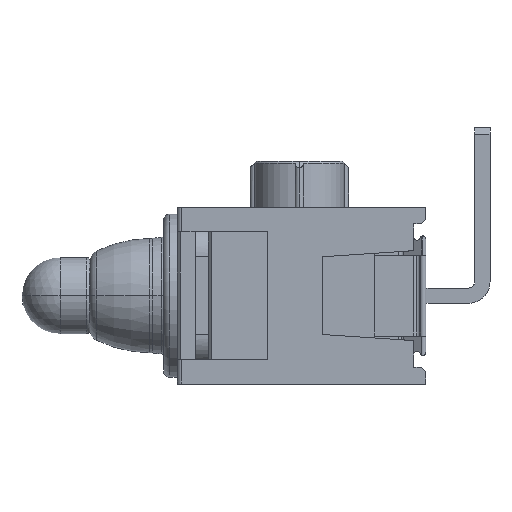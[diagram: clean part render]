
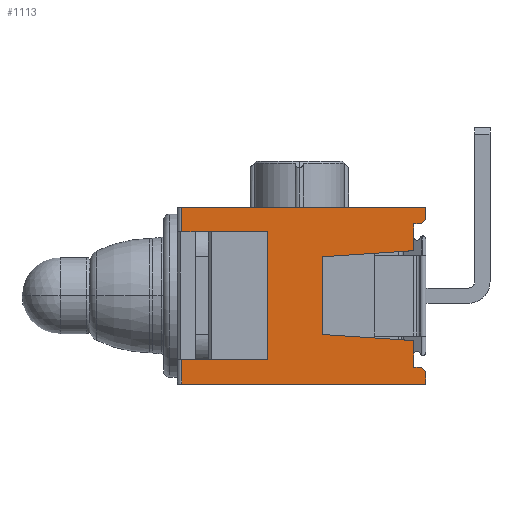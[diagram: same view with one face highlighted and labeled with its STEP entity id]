
A CAD part, left-side view. The second image highlights one B-rep face of the part: STEP entity #1113.
In plain terms, the highlighted planar face has unit normal (-1, 0, 0).
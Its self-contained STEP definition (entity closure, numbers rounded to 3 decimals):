
#951 = ORIENTED_EDGE ( 'NONE', *, *, #952, .T. ) ;
#952 = EDGE_CURVE ( 'NONE', #12092, #1134, #6351, .T. ) ;
#953 = ORIENTED_EDGE ( 'NONE', *, *, #954, .T. ) ;
#954 = EDGE_CURVE ( 'NONE', #1134, #955, #6347, .T. ) ;
#955 = VERTEX_POINT ( 'NONE', #6343 ) ;
#956 = ORIENTED_EDGE ( 'NONE', *, *, #957, .T. ) ;
#957 = EDGE_CURVE ( 'NONE', #955, #958, #6342, .T. ) ;
#958 = VERTEX_POINT ( 'NONE', #6338 ) ;
#959 = ORIENTED_EDGE ( 'NONE', *, *, #960, .T. ) ;
#960 = EDGE_CURVE ( 'NONE', #958, #961, #6337, .T. ) ;
#961 = VERTEX_POINT ( 'NONE', #6333 ) ;
#962 = ORIENTED_EDGE ( 'NONE', *, *, #963, .T. ) ;
#963 = EDGE_CURVE ( 'NONE', #961, #3244, #6332, .T. ) ;
#1092 = ORIENTED_EDGE ( 'NONE', *, *, #2604, .T. ) ;
#1093 = ORIENTED_EDGE ( 'NONE', *, *, #3200, .T. ) ;
#1094 = ORIENTED_EDGE ( 'NONE', *, *, #3509, .T. ) ;
#1113 = ADVANCED_FACE ( 'NONE', ( #12820 ), #12805, .F. ) ;
#1114 = EDGE_LOOP ( 'NONE', ( #1115, #1116, #1119, #1122, #1125, #1128, #1130, #1131, #1132, #1133, #951, #953, #956, #959, #962, #1092, #1093, #1094 ) ) ;
#1115 = ORIENTED_EDGE ( 'NONE', *, *, #2469, .F. ) ;
#1116 = ORIENTED_EDGE ( 'NONE', *, *, #1117, .T. ) ;
#1117 = EDGE_CURVE ( 'NONE', #2467, #1118, #12800, .T. ) ;
#1118 = VERTEX_POINT ( 'NONE', #12796 ) ;
#1119 = ORIENTED_EDGE ( 'NONE', *, *, #1120, .F. ) ;
#1120 = EDGE_CURVE ( 'NONE', #1121, #1118, #12795, .T. ) ;
#1121 = VERTEX_POINT ( 'NONE', #12791 ) ;
#1122 = ORIENTED_EDGE ( 'NONE', *, *, #1123, .T. ) ;
#1123 = EDGE_CURVE ( 'NONE', #1121, #1124, #12790, .T. ) ;
#1124 = VERTEX_POINT ( 'NONE', #12786 ) ;
#1125 = ORIENTED_EDGE ( 'NONE', *, *, #1126, .F. ) ;
#1126 = EDGE_CURVE ( 'NONE', #1127, #1124, #12785, .T. ) ;
#1127 = VERTEX_POINT ( 'NONE', #12781 ) ;
#1128 = ORIENTED_EDGE ( 'NONE', *, *, #1129, .T. ) ;
#1129 = EDGE_CURVE ( 'NONE', #1127, #2674, #12780, .T. ) ;
#1130 = ORIENTED_EDGE ( 'NONE', *, *, #2673, .T. ) ;
#1131 = ORIENTED_EDGE ( 'NONE', *, *, #2700, .T. ) ;
#1132 = ORIENTED_EDGE ( 'NONE', *, *, #2639, .T. ) ;
#1133 = ORIENTED_EDGE ( 'NONE', *, *, #12108, .T. ) ;
#1134 = VERTEX_POINT ( 'NONE', #12776 ) ;
#2467 = VERTEX_POINT ( 'NONE', #15805 ) ;
#2469 = EDGE_CURVE ( 'NONE', #2467, #2499, #15804, .T. ) ;
#2499 = VERTEX_POINT ( 'NONE', #15715 ) ;
#2604 = EDGE_CURVE ( 'NONE', #3244, #3245, #15864, .T. ) ;
#2639 = EDGE_CURVE ( 'NONE', #2698, #12109, #15944, .T. ) ;
#2671 = VERTEX_POINT ( 'NONE', #16222 ) ;
#2673 = EDGE_CURVE ( 'NONE', #2674, #2671, #16221, .T. ) ;
#2674 = VERTEX_POINT ( 'NONE', #16217 ) ;
#2698 = VERTEX_POINT ( 'NONE', #16191 ) ;
#2700 = EDGE_CURVE ( 'NONE', #2671, #2698, #16189, .T. ) ;
#3198 = VERTEX_POINT ( 'NONE', #17584 ) ;
#3200 = EDGE_CURVE ( 'NONE', #3245, #3198, #17582, .T. ) ;
#3244 = VERTEX_POINT ( 'NONE', #17837 ) ;
#3245 = VERTEX_POINT ( 'NONE', #17836 ) ;
#3509 = EDGE_CURVE ( 'NONE', #3198, #2499, #6781, .T. ) ;
#6329 = DIRECTION ( 'NONE',  ( 0., 0., 1. ) ) ;
#6330 = VECTOR ( 'NONE', #6329, 1000. ) ;
#6331 = CARTESIAN_POINT ( 'NONE',  ( -6.5, 0.6, 1.475 ) ) ;
#6332 = LINE ( 'NONE', #6331, #6330 ) ;
#6333 = CARTESIAN_POINT ( 'NONE',  ( -6.5, 0.6, 1.475 ) ) ;
#6334 = DIRECTION ( 'NONE',  ( 0., -0.998, 0.067 ) ) ;
#6335 = VECTOR ( 'NONE', #6334, 1000. ) ;
#6336 = CARTESIAN_POINT ( 'NONE',  ( -6.5, 3.6, 1.275 ) ) ;
#6337 = LINE ( 'NONE', #6336, #6335 ) ;
#6338 = CARTESIAN_POINT ( 'NONE',  ( -6.5, 3.6, 1.275 ) ) ;
#6339 = DIRECTION ( 'NONE',  ( 0., 0., 1. ) ) ;
#6340 = VECTOR ( 'NONE', #6339, 1000. ) ;
#6341 = CARTESIAN_POINT ( 'NONE',  ( -6.5, 3.6, -2.352 ) ) ;
#6342 = LINE ( 'NONE', #6341, #6340 ) ;
#6343 = CARTESIAN_POINT ( 'NONE',  ( -6.5, 3.6, -1.275 ) ) ;
#6344 = DIRECTION ( 'NONE',  ( 0., 0.998, 0.067 ) ) ;
#6345 = VECTOR ( 'NONE', #6344, 1000. ) ;
#6346 = CARTESIAN_POINT ( 'NONE',  ( -6.5, 0.6, -1.475 ) ) ;
#6347 = LINE ( 'NONE', #6346, #6345 ) ;
#6348 = DIRECTION ( 'NONE',  ( 0., 0., 1. ) ) ;
#6349 = VECTOR ( 'NONE', #6348, 1000. ) ;
#6350 = CARTESIAN_POINT ( 'NONE',  ( -6.5, 0.6, -2.352 ) ) ;
#6351 = LINE ( 'NONE', #6350, #6349 ) ;
#6778 = DIRECTION ( 'NONE',  ( 0., 0., 1. ) ) ;
#6779 = VECTOR ( 'NONE', #6778, 1000. ) ;
#6780 = CARTESIAN_POINT ( 'NONE',  ( -6.5, 0.2, 2.502 ) ) ;
#6781 = LINE ( 'NONE', #6780, #6779 ) ;
#9974 = CARTESIAN_POINT ( 'NONE',  ( -6.5, 0.35, -2.352 ) ) ;
#9975 = DIRECTION ( 'NONE',  ( 0., 1., 0. ) ) ;
#9976 = VECTOR ( 'NONE', #9975, 1000. ) ;
#9977 = CARTESIAN_POINT ( 'NONE',  ( -6.5, 7.77, -2.353 ) ) ;
#9978 = LINE ( 'NONE', #9977, #9976 ) ;
#10121 = CARTESIAN_POINT ( 'NONE',  ( -6.5, 0.6, -2.352 ) ) ;
#12092 = VERTEX_POINT ( 'NONE', #10121 ) ;
#12108 = EDGE_CURVE ( 'NONE', #12109, #12092, #9978, .T. ) ;
#12109 = VERTEX_POINT ( 'NONE', #9974 ) ;
#12776 = CARTESIAN_POINT ( 'NONE',  ( -6.5, 0.6, -1.475 ) ) ;
#12777 = DIRECTION ( 'NONE',  ( 0., 0., -1. ) ) ;
#12778 = VECTOR ( 'NONE', #12777, 1000. ) ;
#12779 = CARTESIAN_POINT ( 'NONE',  ( -6.5, 8.205, 2.9 ) ) ;
#12780 = LINE ( 'NONE', #12779, #12778 ) ;
#12781 = CARTESIAN_POINT ( 'NONE',  ( -6.5, 8.205, -2.095 ) ) ;
#12782 = DIRECTION ( 'NONE',  ( 0., -1., 0. ) ) ;
#12783 = VECTOR ( 'NONE', #12782, 1000. ) ;
#12784 = CARTESIAN_POINT ( 'NONE',  ( -6.5, 8.355, -2.095 ) ) ;
#12785 = LINE ( 'NONE', #12784, #12783 ) ;
#12786 = CARTESIAN_POINT ( 'NONE',  ( -6.5, 5.39, -2.095 ) ) ;
#12787 = DIRECTION ( 'NONE',  ( 0., 0., -1. ) ) ;
#12788 = VECTOR ( 'NONE', #12787, 1000. ) ;
#12789 = CARTESIAN_POINT ( 'NONE',  ( -6.5, 5.39, -2.095 ) ) ;
#12790 = LINE ( 'NONE', #12789, #12788 ) ;
#12791 = CARTESIAN_POINT ( 'NONE',  ( -6.5, 5.39, 2.095 ) ) ;
#12792 = DIRECTION ( 'NONE',  ( 0., 1., 0. ) ) ;
#12793 = VECTOR ( 'NONE', #12792, 1000. ) ;
#12794 = CARTESIAN_POINT ( 'NONE',  ( -6.5, 8.355, 2.095 ) ) ;
#12795 = LINE ( 'NONE', #12794, #12793 ) ;
#12796 = CARTESIAN_POINT ( 'NONE',  ( -6.5, 8.205, 2.095 ) ) ;
#12797 = DIRECTION ( 'NONE',  ( 0., 0., -1. ) ) ;
#12798 = VECTOR ( 'NONE', #12797, 1000. ) ;
#12799 = CARTESIAN_POINT ( 'NONE',  ( -6.5, 8.205, 2.9 ) ) ;
#12800 = LINE ( 'NONE', #12799, #12798 ) ;
#12801 = DIRECTION ( 'NONE',  ( 0., 0., -1. ) ) ;
#12802 = DIRECTION ( 'NONE',  ( 1., 0., 0. ) ) ;
#12803 = CARTESIAN_POINT ( 'NONE',  ( -6.5, 8.355, 2.9 ) ) ;
#12804 = AXIS2_PLACEMENT_3D ( 'NONE', #12803, #12802, #12801 ) ;
#12805 = PLANE ( 'NONE',  #12804 ) ;
#12820 = FACE_OUTER_BOUND ( 'NONE', #1114, .T. ) ;
#15715 = CARTESIAN_POINT ( 'NONE',  ( -6.5, 0.2, 2.9 ) ) ;
#15801 = DIRECTION ( 'NONE',  ( 0., -1., 0. ) ) ;
#15802 = VECTOR ( 'NONE', #15801, 1000. ) ;
#15803 = CARTESIAN_POINT ( 'NONE',  ( -6.5, 8.355, 2.9 ) ) ;
#15804 = LINE ( 'NONE', #15803, #15802 ) ;
#15805 = CARTESIAN_POINT ( 'NONE',  ( -6.5, 8.205, 2.9 ) ) ;
#15861 = DIRECTION ( 'NONE',  ( 0., -1., 0. ) ) ;
#15862 = VECTOR ( 'NONE', #15861, 1000. ) ;
#15863 = CARTESIAN_POINT ( 'NONE',  ( -6.5, 7.77, 2.353 ) ) ;
#15864 = LINE ( 'NONE', #15863, #15862 ) ;
#15941 = DIRECTION ( 'NONE',  ( 0., 0.707, 0.707 ) ) ;
#15942 = VECTOR ( 'NONE', #15941, 1000. ) ;
#15943 = CARTESIAN_POINT ( 'NONE',  ( -6.5, 0.2, -2.502 ) ) ;
#15944 = LINE ( 'NONE', #15943, #15942 ) ;
#16186 = DIRECTION ( 'NONE',  ( 0., 0., 1. ) ) ;
#16187 = VECTOR ( 'NONE', #16186, 1000. ) ;
#16188 = CARTESIAN_POINT ( 'NONE',  ( -6.5, 0.2, -2.502 ) ) ;
#16189 = LINE ( 'NONE', #16188, #16187 ) ;
#16191 = CARTESIAN_POINT ( 'NONE',  ( -6.5, 0.2, -2.502 ) ) ;
#16217 = CARTESIAN_POINT ( 'NONE',  ( -6.5, 8.205, -2.9 ) ) ;
#16218 = DIRECTION ( 'NONE',  ( 0., -1., 0. ) ) ;
#16219 = VECTOR ( 'NONE', #16218, 1000. ) ;
#16220 = CARTESIAN_POINT ( 'NONE',  ( -6.5, 8.355, -2.9 ) ) ;
#16221 = LINE ( 'NONE', #16220, #16219 ) ;
#16222 = CARTESIAN_POINT ( 'NONE',  ( -6.5, 0.2, -2.9 ) ) ;
#17579 = DIRECTION ( 'NONE',  ( 0., -0.707, 0.707 ) ) ;
#17580 = VECTOR ( 'NONE', #17579, 1000. ) ;
#17581 = CARTESIAN_POINT ( 'NONE',  ( -6.5, 0.2, 2.502 ) ) ;
#17582 = LINE ( 'NONE', #17581, #17580 ) ;
#17584 = CARTESIAN_POINT ( 'NONE',  ( -6.5, 0.2, 2.502 ) ) ;
#17836 = CARTESIAN_POINT ( 'NONE',  ( -6.5, 0.35, 2.352 ) ) ;
#17837 = CARTESIAN_POINT ( 'NONE',  ( -6.5, 0.6, 2.352 ) ) ;
